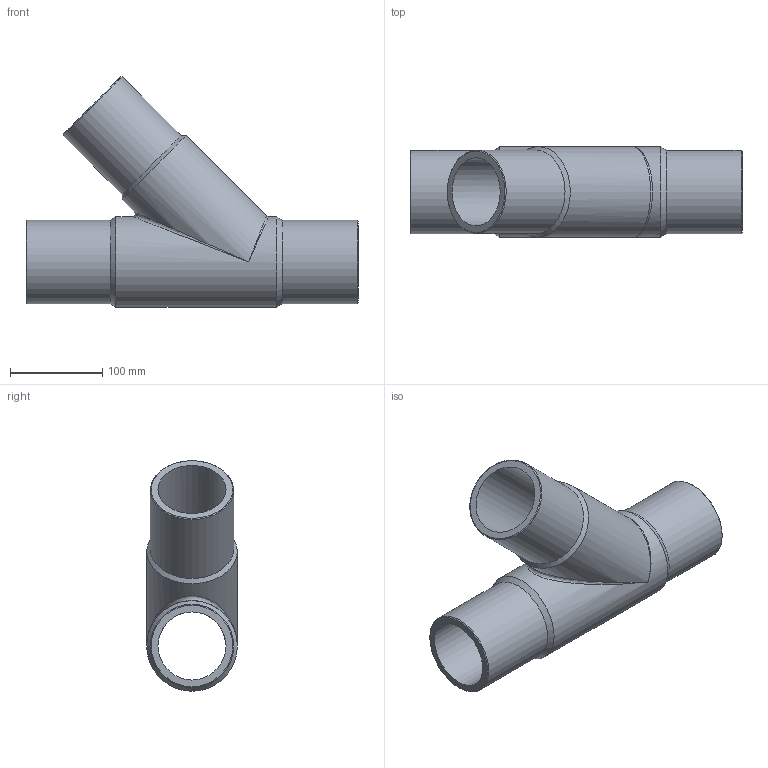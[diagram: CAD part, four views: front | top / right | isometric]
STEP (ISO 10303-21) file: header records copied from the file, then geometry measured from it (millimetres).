
FILE_DESCRIPTION(/* description */ ('Unknown'),/* implementation_level */ '2;1');
FILE_NAME(/* name */ 'T4P090C',/* time_stamp */ '2022-02-23T10:54:07+01:00',/* author */ ('Unknown'),/* organization */ ('Unknown'),/* preprocessor_version */ 'ST-DEVELOPER v18.1',/* originating_system */ 'Solid Edge',/* authorisation */ 'Unknown');
FILE_SCHEMA (('AUTOMOTIVE_DESIGN {1 0 10303 214 3 1 1}'));
Length unit declared in the file: millimetre
Products named in the file (1): T4P090C
Bounding box: 359 x 98 x 249.32 mm (x, y, z)
Volume: 1390563.1 mm3; surface area: 279840.5 mm2
Topology: 1 solids, 1 shells, 18 faces, 47 edges, 26 vertices
Faces by surface type: cylinder 7, cone 6, plane 3, bspline 2
Full cylindrical faces by diameter (mm): 73.6 x2, 90 x3, 98 x2
Entity records: 516 total; most frequent: CARTESIAN_POINT 159, DIRECTION 76, ORIENTED_EDGE 42, AXIS2_PLACEMENT_3D 38, EDGE_LOOP 36, FACE_BOUND 36, EDGE_CURVE 21, VERTEX_POINT 19
